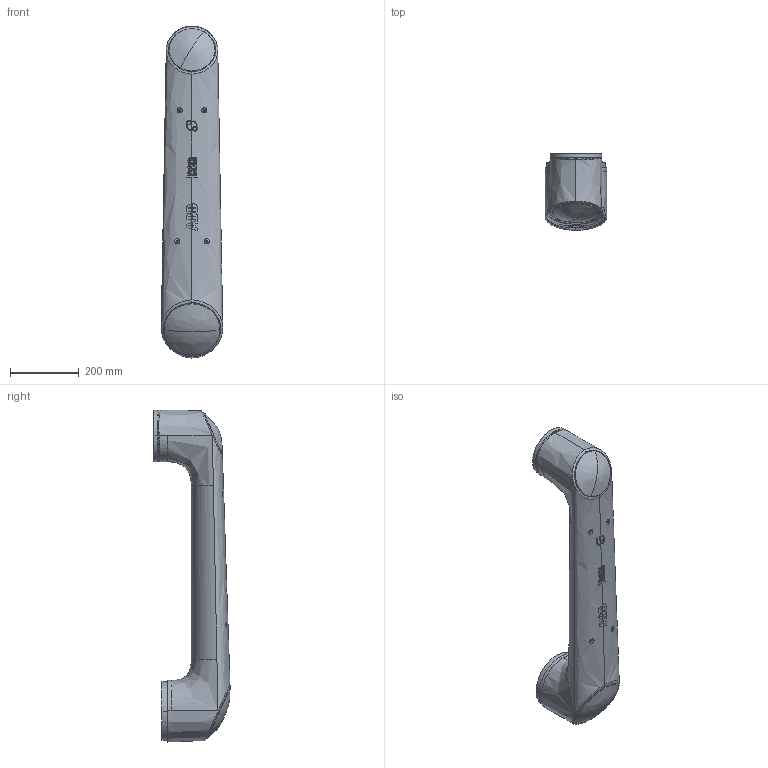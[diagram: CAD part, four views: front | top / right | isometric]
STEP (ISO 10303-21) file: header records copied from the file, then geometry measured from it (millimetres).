
FILE_DESCRIPTION (( 'STEP AP214' ), '1' );
FILE_NAME ('CRB1920_20kg-1670_OmniCore_rev00_Link2.step', '2026-03-06T03:42:31', ( '' ), ( '' ), 'SwSTEP 2.0', 'SolidWorks 2022', '' );
FILE_SCHEMA (( 'AUTOMOTIVE_DESIGN' ));
Length unit declared in the file: millimetre
Products named in the file (1): CRB1920_20kg-1670_OmniCore_rev00_Link2
Bounding box: 178.98 x 221.87 x 964.7 mm (x, y, z)
Volume: 15892587.5 mm3; surface area: 527632.4 mm2
Topology: 1 solids, 1 shells, 482 faces, 1276 edges, 829 vertices
Faces by surface type: bspline 386, cylinder 40, plane 35, cone 11, torus 10
Entity records: 74249 total; most frequent: CARTESIAN_POINT 65179, ORIENTED_EDGE 2528, EDGE_CURVE 1264, B_SPLINE_CURVE_WITH_KNOTS 1080, VERTEX_POINT 829, EDGE_LOOP 527, DIRECTION 484, ADVANCED_FACE 482
